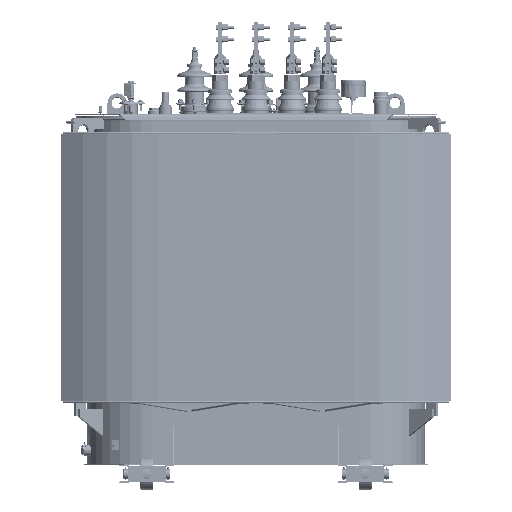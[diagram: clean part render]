
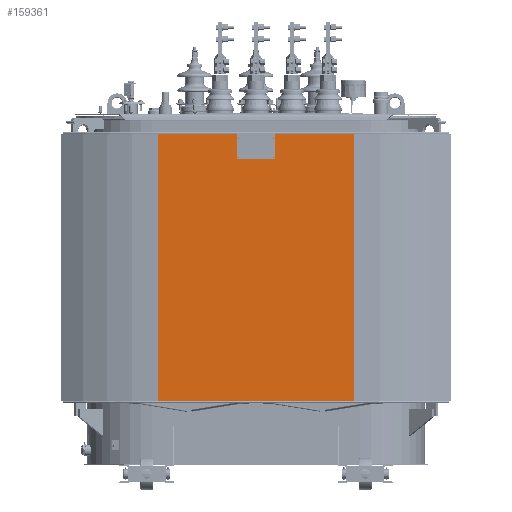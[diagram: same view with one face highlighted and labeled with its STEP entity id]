
A CAD part, front view. The second image highlights one B-rep face of the part: STEP entity #159361.
In plain terms, the highlighted planar face has unit normal (0, 1, 0).
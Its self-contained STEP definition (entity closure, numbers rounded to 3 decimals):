
#22447=FACE_OUTER_BOUND('',#34382,.T.);
#34382=EDGE_LOOP('',(#136816,#136817,#136818,#136819));
#43328=LINE('',#326568,#52316);
#43356=LINE('',#326675,#52344);
#43357=LINE('',#326678,#52345);
#43358=LINE('',#326679,#52346);
#52316=VECTOR('',#213970,100.);
#52344=VECTOR('',#214084,100.);
#52345=VECTOR('',#214089,73.6);
#52346=VECTOR('',#214090,73.6);
#73400=VERTEX_POINT('',#326562);
#73402=VERTEX_POINT('',#326566);
#73437=VERTEX_POINT('',#326672);
#73438=VERTEX_POINT('',#326674);
#94493=EDGE_CURVE('',#73400,#73402,#43328,.T.);
#94546=EDGE_CURVE('',#73437,#73438,#43356,.T.);
#94548=EDGE_CURVE('',#73400,#73437,#43357,.T.);
#94549=EDGE_CURVE('',#73402,#73438,#43358,.T.);
#136816=ORIENTED_EDGE('',*,*,#94548,.F.);
#136817=ORIENTED_EDGE('',*,*,#94493,.T.);
#136818=ORIENTED_EDGE('',*,*,#94549,.T.);
#136819=ORIENTED_EDGE('',*,*,#94546,.F.);
#140682=PLANE('',#174694);
#159361=ADVANCED_FACE('',(#22447),#140682,.F.);
#174694=AXIS2_PLACEMENT_3D('',#326677,#214087,#214088);
#213970=DIRECTION('',(0.,0.,-1.));
#214084=DIRECTION('',(0.,0.,-1.));
#214087=DIRECTION('center_axis',(0.,-1.,0.));
#214088=DIRECTION('ref_axis',(-1.,0.,0.));
#214089=DIRECTION('',(-1.,0.,0.));
#214090=DIRECTION('',(-1.,0.,0.));
#326562=CARTESIAN_POINT('',(37.207,-68.792,-21.752));
#326566=CARTESIAN_POINT('',(37.207,-68.792,-121.752));
#326568=CARTESIAN_POINT('',(37.207,-68.792,-21.752));
#326672=CARTESIAN_POINT('',(-36.393,-68.792,-21.752));
#326674=CARTESIAN_POINT('',(-36.393,-68.792,-121.752));
#326675=CARTESIAN_POINT('',(-36.393,-68.792,-21.752));
#326677=CARTESIAN_POINT('Origin',(37.207,-68.792,-21.752));
#326678=CARTESIAN_POINT('',(37.207,-68.792,-21.752));
#326679=CARTESIAN_POINT('',(37.207,-68.792,-121.752));
